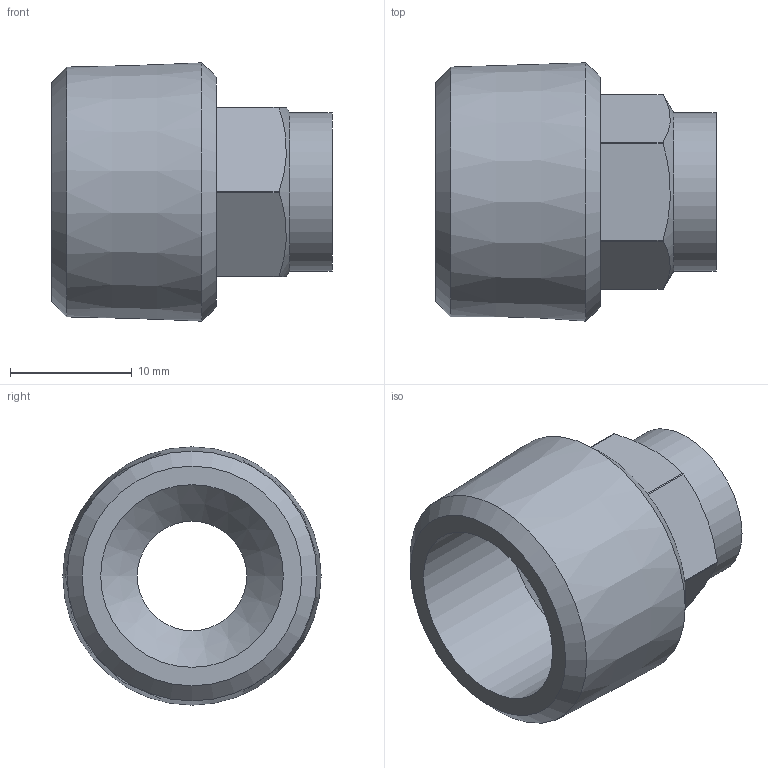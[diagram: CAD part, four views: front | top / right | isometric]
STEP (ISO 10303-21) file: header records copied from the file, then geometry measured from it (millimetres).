
FILE_DESCRIPTION((''),'2;1');
FILE_NAME('\\Lg50001\Groups\SANHA Legnica\Engineering\Public\RYSUNKI\SANHA POLSKA\4243G\step\14243_10-12(2).stp','2008-08-20T10:03:43',('pajchrowski'),(''),'Autodesk Inventor 2008','Autodesk Inventor 2008','');
FILE_SCHEMA(('AUTOMOTIVE_DESIGN { 1 0 10303 214 1 1 1 1 }'));
Length unit declared in the file: millimetre
Products named in the file (1): 14243_10-12(2)
Bounding box: 23 x 21.21 x 21.21 mm (x, y, z)
Volume: 3102.8 mm3; surface area: 2588.4 mm2
Topology: 1 solids, 1 shells, 25 faces, 58 edges, 37 vertices
Faces by surface type: plane 10, cylinder 10, cone 5
Full cylindrical faces by diameter (mm): 9 x1, 10.11 x1, 13 x1, 15 x1
Entity records: 686 total; most frequent: CARTESIAN_POINT 122, DIRECTION 118, ORIENTED_EDGE 96, AXIS2_PLACEMENT_3D 50, EDGE_CURVE 48, EDGE_LOOP 38, VERTEX_POINT 36, FACE_OUTER_BOUND 25
